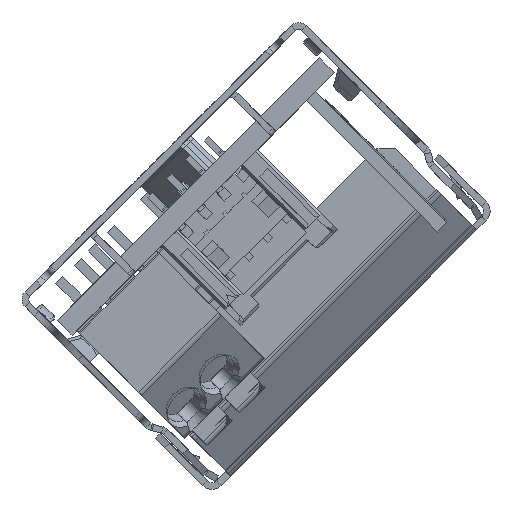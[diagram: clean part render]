
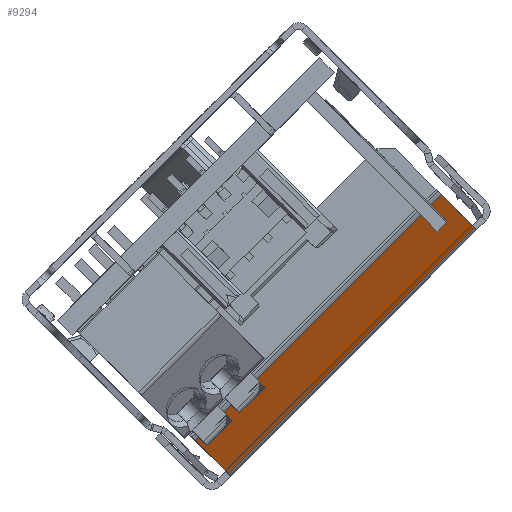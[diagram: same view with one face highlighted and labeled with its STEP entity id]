
A CAD part, left-side view. The second image highlights one B-rep face of the part: STEP entity #9294.
In plain terms, the highlighted planar face has unit normal (-0.707, -0.5, -0.5) as drawn and (-1, 0, 0) by its records, which use the part's own axes.
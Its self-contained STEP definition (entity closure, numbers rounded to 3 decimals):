
#28 = CARTESIAN_POINT ( 'NONE',  ( 105.351, 0., 194.391 ) ) ;
#352 = VECTOR ( 'NONE', #41258, 1000. ) ;
#1653 = ORIENTED_EDGE ( 'NONE', *, *, #17513, .F. ) ;
#1838 = VERTEX_POINT ( 'NONE', #36579 ) ;
#2023 = EDGE_CURVE ( 'NONE', #17671, #12461, #3450, .T. ) ;
#2259 = LINE ( 'NONE', #3156, #16579 ) ;
#2941 = LINE ( 'NONE', #5476, #31527 ) ;
#3156 = CARTESIAN_POINT ( 'NONE',  ( 105.351, 225.454, 194.391 ) ) ;
#3450 = LINE ( 'NONE', #38109, #352 ) ;
#4790 = ORIENTED_EDGE ( 'NONE', *, *, #8984, .T. ) ;
#5476 = CARTESIAN_POINT ( 'NONE',  ( 105.351, 251.725, 194.391 ) ) ;
#6573 = DIRECTION ( 'NONE',  ( 0., 0., -1. ) ) ;
#8885 = ORIENTED_EDGE ( 'NONE', *, *, #15614, .T. ) ;
#8918 = CARTESIAN_POINT ( 'NONE',  ( 105.351, 251.725, 151.007 ) ) ;
#8984 = EDGE_CURVE ( 'NONE', #12982, #1838, #19745, .T. ) ;
#9294 = ADVANCED_FACE ( 'NONE', ( #39720 ), #32325, .F. ) ;
#11257 = CARTESIAN_POINT ( 'NONE',  ( 105.351, 225.454, 156.032 ) ) ;
#12182 = DIRECTION ( 'NONE',  ( 0., 0., -1. ) ) ;
#12461 = VERTEX_POINT ( 'NONE', #8918 ) ;
#12982 = VERTEX_POINT ( 'NONE', #11257 ) ;
#14615 = VECTOR ( 'NONE', #40621, 1000. ) ;
#15614 = EDGE_CURVE ( 'NONE', #1838, #12461, #2941, .T. ) ;
#16446 = DIRECTION ( 'NONE',  ( 1., 0., 0. ) ) ;
#16579 = VECTOR ( 'NONE', #6573, 1000. ) ;
#17513 = EDGE_CURVE ( 'NONE', #12982, #17671, #2259, .T. ) ;
#17671 = VERTEX_POINT ( 'NONE', #20555 ) ;
#19745 = LINE ( 'NONE', #24207, #14615 ) ;
#20555 = CARTESIAN_POINT ( 'NONE',  ( 105.351, 225.454, 151.007 ) ) ;
#22023 = AXIS2_PLACEMENT_3D ( 'NONE', #28, #16446, #36022 ) ;
#24207 = CARTESIAN_POINT ( 'NONE',  ( 105.351, 0., 156.032 ) ) ;
#26806 = EDGE_LOOP ( 'NONE', ( #29588, #1653, #4790, #8885 ) ) ;
#29588 = ORIENTED_EDGE ( 'NONE', *, *, #2023, .F. ) ;
#31527 = VECTOR ( 'NONE', #12182, 1000. ) ;
#32325 = PLANE ( 'NONE',  #22023 ) ;
#36022 = DIRECTION ( 'NONE',  ( 0., 0., -1. ) ) ;
#36579 = CARTESIAN_POINT ( 'NONE',  ( 105.351, 251.725, 156.032 ) ) ;
#38109 = CARTESIAN_POINT ( 'NONE',  ( 105.351, 0., 151.007 ) ) ;
#39720 = FACE_OUTER_BOUND ( 'NONE', #26806, .T. ) ;
#40621 = DIRECTION ( 'NONE',  ( 0., 1., 0. ) ) ;
#41258 = DIRECTION ( 'NONE',  ( 0., 1., 0. ) ) ;
